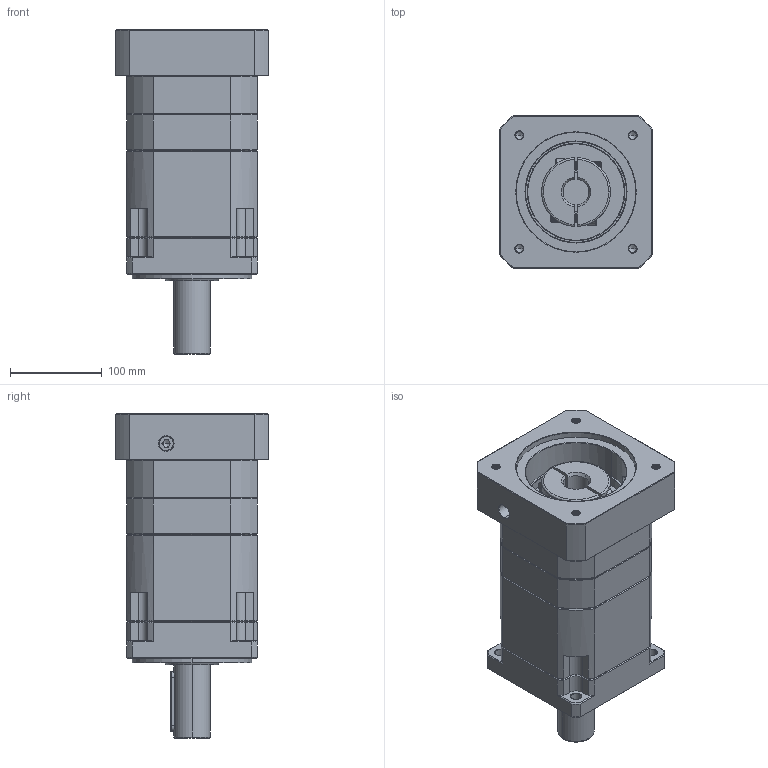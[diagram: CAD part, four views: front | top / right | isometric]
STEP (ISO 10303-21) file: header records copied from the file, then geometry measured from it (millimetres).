
FILE_DESCRIPTION (( 'STEP AP214' ), '1' );
FILE_NAME ('ZB142A-D40-L3-P2-28-130-174-M10.step', '2023-09-01T11:44:07', ( '' ), ( '' ), 'SwSTEP 2.0', 'SolidWorks 2016', '' );
FILE_SCHEMA (( 'AUTOMOTIVE_DESIGN' ));
Length unit declared in the file: millimetre
Products named in the file (1): ZB142A-D40-L3-P2-28-130-174-M10
Bounding box: 166 x 166 x 353.2 mm (x, y, z)
Volume: 5090808.2 mm3; surface area: 345393.3 mm2
Topology: 6 solids, 6 shells, 2344 faces, 6268 edges, 4028 vertices
Faces by surface type: plane 1115, cylinder 436, bspline 411, cone 360, torus 22
Entity records: 130340 total; most frequent: CARTESIAN_POINT 49381, ORIENTED_EDGE 12476, DIRECTION 9902, EDGE_CURVE 6238, VERTEX_POINT 4028, VECTOR 3926, LINE 3926, AXIS2_PLACEMENT_3D 2988
